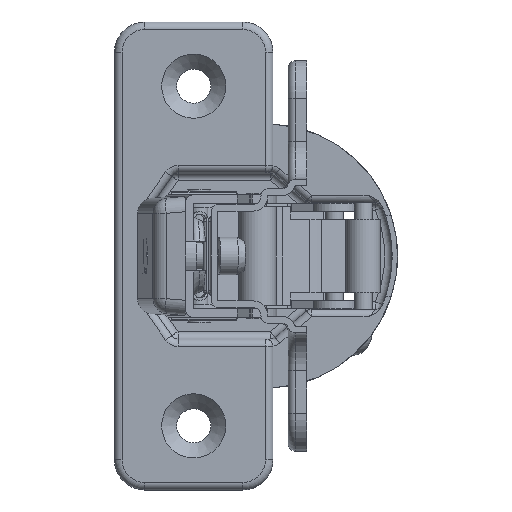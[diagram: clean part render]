
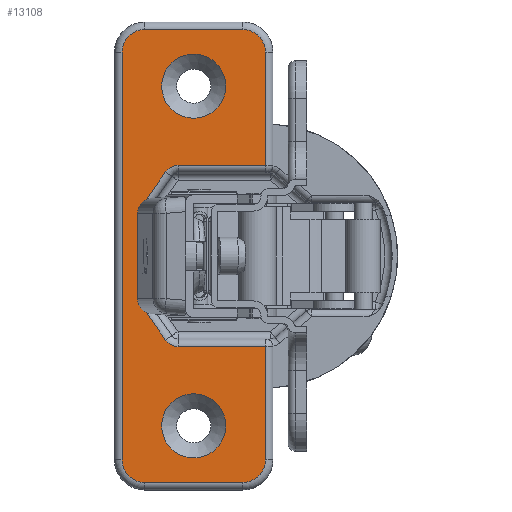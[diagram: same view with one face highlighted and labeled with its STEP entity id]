
A CAD part, left-side view. The second image highlights one B-rep face of the part: STEP entity #13108.
In plain terms, the highlighted planar face has unit normal (-1, 0, 0) as drawn and (0.246, 0.969, 0) by its records, which use the part's own axes.
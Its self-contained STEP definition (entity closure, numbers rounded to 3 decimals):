
#317=FACE_BOUND('',#2445,.T.);
#318=FACE_BOUND('',#2446,.T.);
#918=CIRCLE('',#13908,2.);
#922=CIRCLE('',#13914,2.);
#926=CIRCLE('',#13920,2.);
#930=CIRCLE('',#13926,2.);
#969=CIRCLE('',#14003,3.);
#973=CIRCLE('',#14009,3.);
#977=CIRCLE('',#14015,3.);
#980=CIRCLE('',#14020,3.);
#989=CIRCLE('',#14040,4.25);
#990=CIRCLE('',#14041,4.25);
#1654=FACE_OUTER_BOUND('',#2444,.T.);
#2444=EDGE_LOOP('',(#8899,#8900,#8901,#8902,#8903,#8904,#8905,#8906,#8907,
#8908,#8909,#8910,#8911,#8912,#8913,#8914,#8915,#8916));
#2445=EDGE_LOOP('',(#8917));
#2446=EDGE_LOOP('',(#8918));
#3303=LINE('',#19660,#4345);
#3304=LINE('',#19671,#4346);
#3306=LINE('',#19683,#4348);
#3308=LINE('',#19695,#4350);
#3310=LINE('',#19707,#4352);
#3319=LINE('',#19776,#4361);
#3362=LINE('',#19919,#4404);
#3365=LINE('',#19934,#4407);
#3367=LINE('',#19946,#4409);
#3369=LINE('',#19958,#4411);
#4345=VECTOR('',#15580,11.578);
#4346=VECTOR('',#15593,5.268);
#4348=VECTOR('',#15607,11.369);
#4350=VECTOR('',#15621,5.268);
#4352=VECTOR('',#15635,11.578);
#4361=VECTOR('',#15672,15.);
#4404=VECTOR('',#15825,15.);
#4407=VECTOR('',#15842,13.);
#4409=VECTOR('',#15856,54.);
#4411=VECTOR('',#15870,13.);
#5413=VERTEX_POINT('',#19653);
#5416=VERTEX_POINT('',#19658);
#5418=VERTEX_POINT('',#19663);
#5420=VERTEX_POINT('',#19669);
#5422=VERTEX_POINT('',#19675);
#5424=VERTEX_POINT('',#19681);
#5426=VERTEX_POINT('',#19687);
#5428=VERTEX_POINT('',#19693);
#5430=VERTEX_POINT('',#19699);
#5432=VERTEX_POINT('',#19705);
#5440=VERTEX_POINT('',#19774);
#5481=VERTEX_POINT('',#19918);
#5483=VERTEX_POINT('',#19924);
#5485=VERTEX_POINT('',#19930);
#5487=VERTEX_POINT('',#19936);
#5489=VERTEX_POINT('',#19942);
#5491=VERTEX_POINT('',#19948);
#5493=VERTEX_POINT('',#19954);
#5507=VERTEX_POINT('',#20007);
#5508=VERTEX_POINT('',#20009);
#6659=EDGE_CURVE('',#5416,#5413,#3303,.T.);
#6661=EDGE_CURVE('',#5418,#5416,#918,.T.);
#6664=EDGE_CURVE('',#5420,#5418,#3304,.T.);
#6667=EDGE_CURVE('',#5422,#5420,#922,.T.);
#6670=EDGE_CURVE('',#5424,#5422,#3306,.T.);
#6673=EDGE_CURVE('',#5426,#5424,#926,.T.);
#6676=EDGE_CURVE('',#5428,#5426,#3308,.T.);
#6679=EDGE_CURVE('',#5430,#5428,#930,.T.);
#6682=EDGE_CURVE('',#5432,#5430,#3310,.T.);
#6700=EDGE_CURVE('',#5440,#5432,#3319,.T.);
#6770=EDGE_CURVE('',#5413,#5481,#3362,.T.);
#6775=EDGE_CURVE('',#5481,#5483,#969,.T.);
#6778=EDGE_CURVE('',#5483,#5485,#3365,.T.);
#6781=EDGE_CURVE('',#5485,#5487,#973,.T.);
#6784=EDGE_CURVE('',#5487,#5489,#3367,.T.);
#6787=EDGE_CURVE('',#5489,#5491,#977,.T.);
#6790=EDGE_CURVE('',#5491,#5493,#3369,.T.);
#6792=EDGE_CURVE('',#5493,#5440,#980,.T.);
#6815=EDGE_CURVE('',#5507,#5507,#989,.T.);
#6816=EDGE_CURVE('',#5508,#5508,#990,.T.);
#8899=ORIENTED_EDGE('',*,*,#6682,.F.);
#8900=ORIENTED_EDGE('',*,*,#6700,.F.);
#8901=ORIENTED_EDGE('',*,*,#6792,.F.);
#8902=ORIENTED_EDGE('',*,*,#6790,.F.);
#8903=ORIENTED_EDGE('',*,*,#6787,.F.);
#8904=ORIENTED_EDGE('',*,*,#6784,.F.);
#8905=ORIENTED_EDGE('',*,*,#6781,.F.);
#8906=ORIENTED_EDGE('',*,*,#6778,.F.);
#8907=ORIENTED_EDGE('',*,*,#6775,.F.);
#8908=ORIENTED_EDGE('',*,*,#6770,.F.);
#8909=ORIENTED_EDGE('',*,*,#6659,.F.);
#8910=ORIENTED_EDGE('',*,*,#6661,.F.);
#8911=ORIENTED_EDGE('',*,*,#6664,.F.);
#8912=ORIENTED_EDGE('',*,*,#6667,.F.);
#8913=ORIENTED_EDGE('',*,*,#6670,.F.);
#8914=ORIENTED_EDGE('',*,*,#6673,.F.);
#8915=ORIENTED_EDGE('',*,*,#6676,.F.);
#8916=ORIENTED_EDGE('',*,*,#6679,.F.);
#8917=ORIENTED_EDGE('',*,*,#6815,.T.);
#8918=ORIENTED_EDGE('',*,*,#6816,.T.);
#12314=PLANE('',#14039);
#13108=ADVANCED_FACE('',(#1654,#317,#318),#12314,.T.);
#13908=AXIS2_PLACEMENT_3D('',#19665,#15585,#15586);
#13914=AXIS2_PLACEMENT_3D('',#19677,#15599,#15600);
#13920=AXIS2_PLACEMENT_3D('',#19689,#15613,#15614);
#13926=AXIS2_PLACEMENT_3D('',#19701,#15627,#15628);
#14003=AXIS2_PLACEMENT_3D('',#19928,#15835,#15836);
#14009=AXIS2_PLACEMENT_3D('',#19940,#15849,#15850);
#14015=AXIS2_PLACEMENT_3D('',#19952,#15863,#15864);
#14020=AXIS2_PLACEMENT_3D('',#19961,#15875,#15876);
#14039=AXIS2_PLACEMENT_3D('',#20006,#15927,#15928);
#14040=AXIS2_PLACEMENT_3D('',#20008,#15929,#15930);
#14041=AXIS2_PLACEMENT_3D('',#20010,#15931,#15932);
#15580=DIRECTION('',(-0.969,0.246,0.));
#15585=DIRECTION('center_axis',(0.246,0.969,0.));
#15586=DIRECTION('ref_axis',(0.448,-0.114,-0.887));
#15593=DIRECTION('',(-0.556,0.141,-0.819));
#15599=DIRECTION('center_axis',(0.246,0.969,0.));
#15600=DIRECTION('ref_axis',(0.924,-0.235,-0.301));
#15607=DIRECTION('',(0.,0.,-1.));
#15613=DIRECTION('center_axis',(0.246,0.969,0.));
#15614=DIRECTION('ref_axis',(0.924,-0.235,0.301));
#15621=DIRECTION('',(0.556,-0.141,-0.819));
#15627=DIRECTION('center_axis',(0.246,0.969,0.));
#15628=DIRECTION('ref_axis',(0.448,-0.114,0.887));
#15635=DIRECTION('',(0.969,-0.246,0.));
#15672=DIRECTION('',(0.,0.,-1.));
#15825=DIRECTION('',(0.,0.,-1.));
#15835=DIRECTION('center_axis',(-0.246,-0.969,0.));
#15836=DIRECTION('ref_axis',(-0.685,0.174,-0.707));
#15842=DIRECTION('',(0.969,-0.246,0.));
#15849=DIRECTION('center_axis',(-0.246,-0.969,0.));
#15850=DIRECTION('ref_axis',(0.685,-0.174,-0.707));
#15856=DIRECTION('',(0.,0.,1.));
#15863=DIRECTION('center_axis',(-0.246,-0.969,0.));
#15864=DIRECTION('ref_axis',(0.685,-0.174,0.707));
#15870=DIRECTION('',(-0.969,0.246,0.));
#15875=DIRECTION('center_axis',(-0.246,-0.969,0.));
#15876=DIRECTION('ref_axis',(-0.685,0.174,0.707));
#15927=DIRECTION('center_axis',(0.246,0.969,0.));
#15928=DIRECTION('ref_axis',(-0.969,0.246,0.));
#15929=DIRECTION('center_axis',(-0.246,-0.969,0.));
#15930=DIRECTION('ref_axis',(0.969,-0.246,0.));
#15931=DIRECTION('center_axis',(-0.246,-0.969,0.));
#15932=DIRECTION('ref_axis',(0.969,-0.246,0.));
#19653=CARTESIAN_POINT('',(79.095,18.452,-12.));
#19658=CARTESIAN_POINT('',(90.316,15.598,-12.));
#19660=CARTESIAN_POINT('',(88.302,16.111,-12.));
#19663=CARTESIAN_POINT('',(91.904,15.195,-11.147));
#19665=CARTESIAN_POINT('Origin',(90.316,15.598,-10.));
#19669=CARTESIAN_POINT('',(94.832,14.45,-6.832));
#19671=CARTESIAN_POINT('',(95.379,14.311,-6.027));
#19675=CARTESIAN_POINT('',(95.183,14.361,-5.685));
#19677=CARTESIAN_POINT('Origin',(93.244,14.854,-5.685));
#19681=CARTESIAN_POINT('',(95.183,14.361,5.685));
#19683=CARTESIAN_POINT('',(95.183,14.361,-3.));
#19687=CARTESIAN_POINT('',(94.832,14.45,6.832));
#19689=CARTESIAN_POINT('Origin',(93.244,14.854,5.685));
#19693=CARTESIAN_POINT('',(91.904,15.195,11.147));
#19695=CARTESIAN_POINT('',(97.075,13.88,3.527));
#19699=CARTESIAN_POINT('',(90.316,15.598,12.));
#19701=CARTESIAN_POINT('Origin',(90.316,15.598,10.));
#19705=CARTESIAN_POINT('',(79.095,18.452,12.));
#19707=CARTESIAN_POINT('',(94.649,14.497,12.));
#19774=CARTESIAN_POINT('',(79.095,18.452,27.));
#19776=CARTESIAN_POINT('',(79.095,18.452,0.));
#19918=CARTESIAN_POINT('',(79.095,18.452,-27.));
#19919=CARTESIAN_POINT('',(79.095,18.452,0.));
#19924=CARTESIAN_POINT('',(82.002,17.712,-30.));
#19928=CARTESIAN_POINT('Origin',(82.002,17.712,-27.));
#19930=CARTESIAN_POINT('',(94.601,14.509,-30.));
#19934=CARTESIAN_POINT('',(89.378,15.837,-30.));
#19936=CARTESIAN_POINT('',(97.509,13.77,-27.));
#19940=CARTESIAN_POINT('Origin',(94.601,14.509,-27.));
#19942=CARTESIAN_POINT('',(97.509,13.77,27.));
#19946=CARTESIAN_POINT('',(97.509,13.77,0.));
#19948=CARTESIAN_POINT('',(94.601,14.509,30.));
#19952=CARTESIAN_POINT('Origin',(94.601,14.509,27.));
#19954=CARTESIAN_POINT('',(82.002,17.712,30.));
#19958=CARTESIAN_POINT('',(89.378,15.837,30.));
#19961=CARTESIAN_POINT('Origin',(82.002,17.712,27.));
#20006=CARTESIAN_POINT('Origin',(98.478,13.523,0.));
#20007=CARTESIAN_POINT('',(92.421,15.063,22.5));
#20008=CARTESIAN_POINT('Origin',(88.302,16.111,22.5));
#20009=CARTESIAN_POINT('',(92.421,15.063,-22.5));
#20010=CARTESIAN_POINT('Origin',(88.302,16.111,-22.5));
